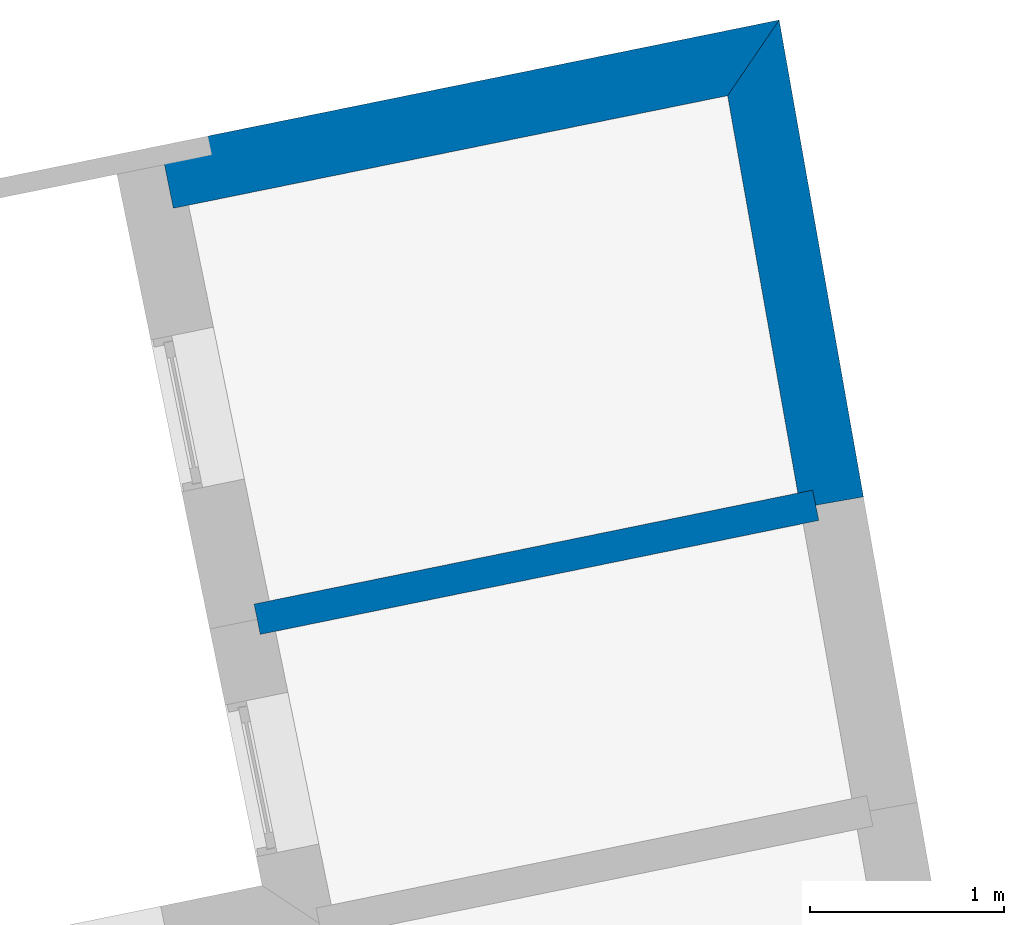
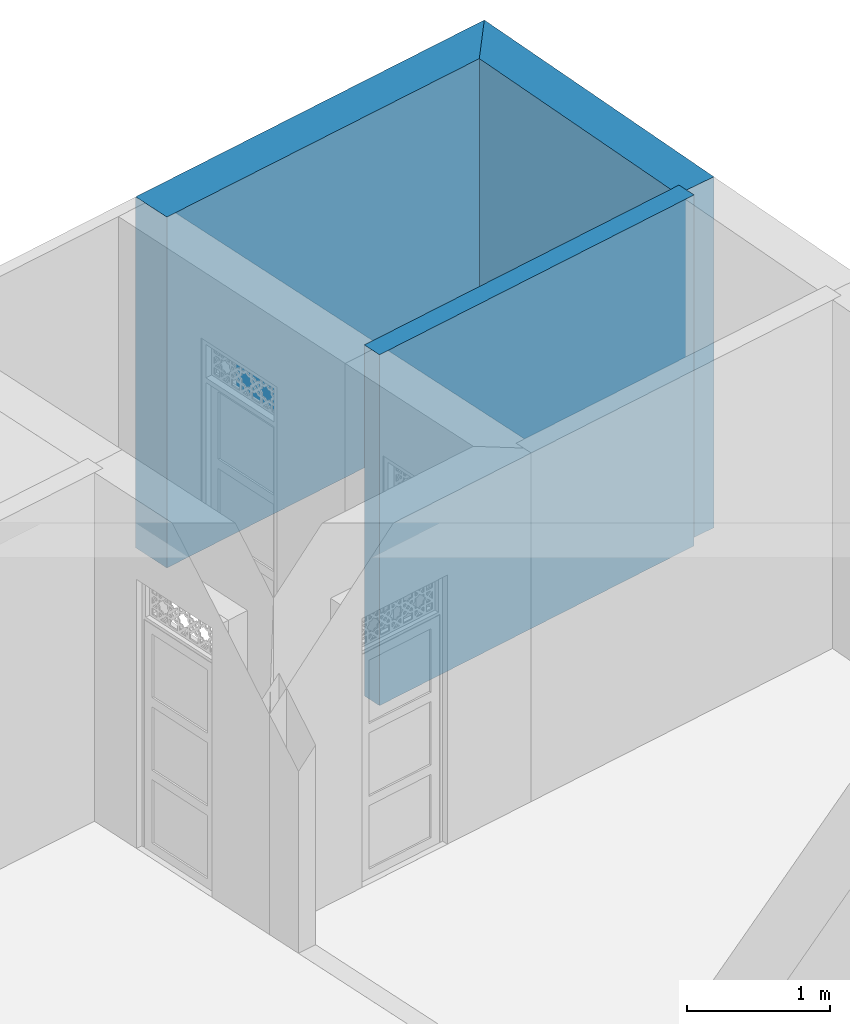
# One storey, part 11 of 11: 3 walls.
"""IFC4 building model written with IfcOpenShell, lengths in metres."""

from ifc_helpers import new_model, si_unit, frame, origin_with_axes, place, context, subcontext, project, spatial, polyline, outline, extrude, material, layer, layer_set, layer_usage, type_object, element, save


model = new_model("IFC4")

# Units and contexts
model_context = context("Model", 3, world=origin_with_axes())
body_context = subcontext(model_context, "Body", "Model", "MODEL_VIEW")
ifc_project = project(units=[si_unit("PLANEANGLEUNIT", "RADIAN"), si_unit("MASSUNIT", "GRAM", prefix="KILO"), si_unit("FORCEUNIT", "NEWTON", prefix="KILO"), si_unit("LENGTHUNIT", "METRE"), si_unit("AREAUNIT", "SQUARE_METRE"), si_unit("VOLUMEUNIT", "CUBIC_METRE")], contexts=[model_context, model_context])

# Site, building, storey
site_placement = place(None, origin_with_axes())
site = spatial("IfcSite", under=ifc_project, at=site_placement, Name="Site plot-7", CompositionType="ELEMENT")
building_placement = place(None, origin_with_axes())
building = spatial("IfcBuilding", under=site, at=building_placement, Name="Building plot-7", CompositionType="ELEMENT")
storey_placement = place(None, origin_with_axes())
storey = spatial("IfcBuildingStorey", under=building, at=storey_placement, Name="plot-7 0", CompositionType="ELEMENT", Elevation=0.0)

# Walls
ifc_material_1 = material(Name="Masonry")
ifc_layer_1 = layer(ifc_material_1, 0.33, ventilated=False)
ifc_layer_set_1 = layer_set([ifc_layer_1], Name="party_0.08_0.25")
ifc_layer_usage_1 = layer_usage(ifc_layer_set_1, "AXIS2", "POSITIVE", -0.25)
wall_type_1 = type_object("IfcWallType", Name="party_0.08_0.25", PredefinedType="SOLIDWALL", material=ifc_layer_set_1)
wall_1_placement = place(storey_placement, frame((-0.93117888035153, 11.0047907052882, 0.0), z_axis=(0.0, 0.0, 1.0), x_axis=(-0.174013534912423, 0.984743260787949, 0.0)))
element("IfcWall", 1, at=wall_1_placement, inside=storey, type_object=wall_type_1, material=ifc_layer_usage_1, Name="party", context=body_context, shape_type="SweptSolid", body=[
    extrude(outline(polyline([(1.82534271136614e-16, 0.0799999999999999), (7.36953050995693e-16, -0.25), (2.49984540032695, -0.25), (2.16132916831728, 0.0799999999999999), (1.82534271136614e-16, 0.0799999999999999)])), origin_with_axes(), (0.0, 0.0, 1.0), 3.0),
])
wall_2_placement = place(storey_placement, frame((-1.32155974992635, 13.2139575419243, 0.0), z_axis=(0.0, 0.0, 1.0), x_axis=(-0.979990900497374, -0.199042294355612, 0.0)))
element("IfcWall", 2, at=wall_2_placement, inside=storey, type_object=wall_type_1, material=ifc_layer_usage_1, Name="party", context=body_context, shape_type="SweptSolid", body=[
    extrude(outline(polyline([(0.0820645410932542, 0.0800000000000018), (-0.25645169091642, -0.250000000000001), (3.002253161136, -0.25), (3.002253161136, 0.0800000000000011), (0.0820645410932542, 0.0800000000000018)])), origin_with_axes(), (0.0, 0.0, 1.0), 3.0),
])
ifc_material_2 = material(Name="Masonry")
ifc_layer_2 = layer(ifc_material_2, 0.16, ventilated=False)
ifc_layer_set_2 = layer_set([ifc_layer_2], Name="interior_0.08_0.08")
ifc_layer_usage_2 = layer_usage(ifc_layer_set_2, "AXIS2", "POSITIVE", -0.08)
wall_type_2 = type_object("IfcWallType", Name="interior_0.08_0.08", PredefinedType="SOLIDWALL", material=ifc_layer_set_2)
wall_3_placement = place(storey_placement, frame((-0.93117888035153, 11.0047907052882, 0.0), z_axis=(0.0, 0.0, 1.0), x_axis=(-0.979807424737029, -0.199943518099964, 0.0)))
element("IfcWall", 3, at=wall_3_placement, inside=storey, type_object=wall_type_2, material=ifc_layer_usage_2, Name="interior", context=body_context, shape_type="SweptSolid", body=[
    extrude(outline(polyline([(-8.57500351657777e-17, 0.0799999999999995), (9.37164291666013e-17, -0.0799999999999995), (2.94304137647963, -0.0799999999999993), (2.94304137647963, 0.0799999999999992), (-8.57500351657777e-17, 0.0799999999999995)])), origin_with_axes(), (0.0, 0.0, 1.0), 3.0),
])

save(model, "model.ifc")
